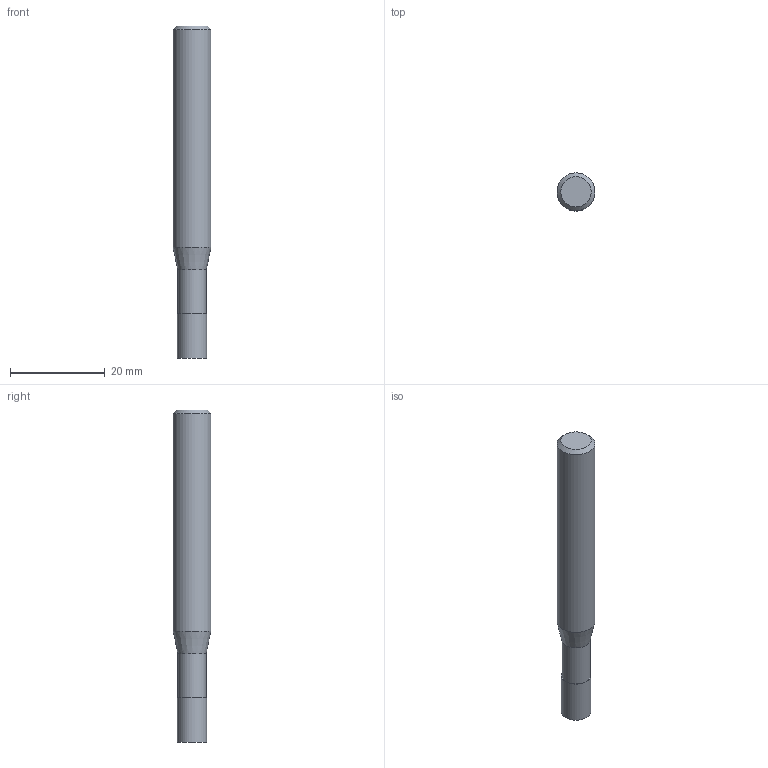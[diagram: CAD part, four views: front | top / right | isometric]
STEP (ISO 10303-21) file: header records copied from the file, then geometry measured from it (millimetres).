
FILE_DESCRIPTION((''),'2;1');
FILE_NAME('C:\Users\nsx150\AppData\Local\Temp\Mastercam 2021\EUJSUNXURU\TEMP.step','2021-04-22T10:28:54',(''),(''),'STEP Write','Mastercam 2021 ... CNC Software, Inc.','');
FILE_SCHEMA(('AUTOMOTIVE_DESIGN'));
Length unit declared in the file: millimetre
Products named in the file (1): None
Bounding box: 8 x 8 x 70 mm (x, y, z)
Volume: 3065.7 mm3; surface area: 1762.1 mm2
Topology: 2 solids, 2 shells, 9 faces, 12 edges, 7 vertices
Faces by surface type: plane 4, cylinder 3, cone 2
Full cylindrical faces by diameter (mm): 6 x1, 6.2 x1, 8 x1
Entity records: 211 total; most frequent: DIRECTION 36, CARTESIAN_POINT 25, AXIS2_PLACEMENT_3D 18, ORIENTED_EDGE 14, EDGE_LOOP 14, STYLED_ITEM 12, ADVANCED_FACE 9, FACE_BOUND 8
